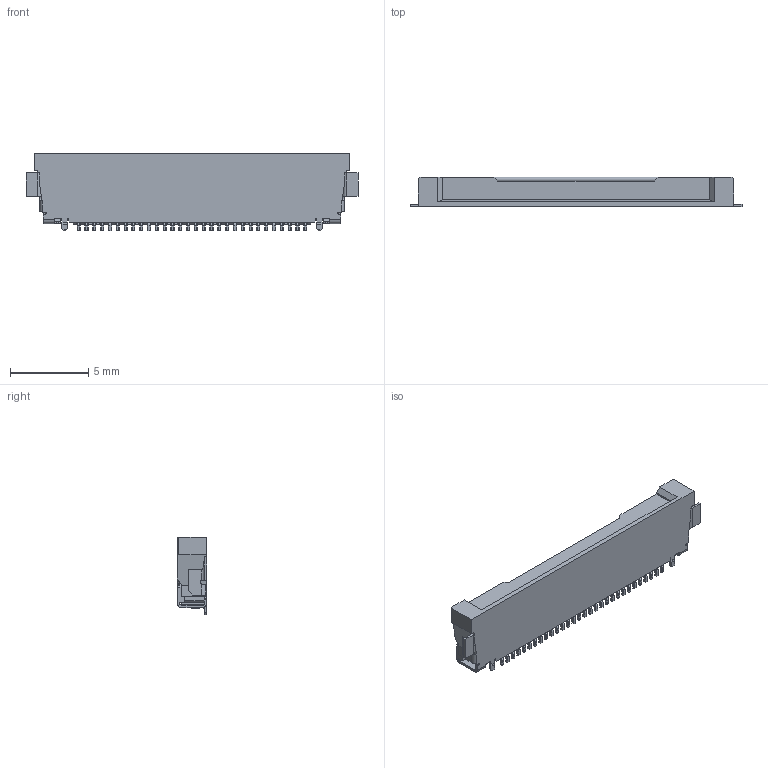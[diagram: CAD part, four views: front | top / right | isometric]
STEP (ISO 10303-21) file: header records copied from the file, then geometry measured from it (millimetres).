
FILE_DESCRIPTION (( 'STEP AP203' ), '1' );
FILE_NAME ('20535-030ExxxC Assy STEP R4 ALL.STEP', '2013-03-07T09:52:43', ( ' ' ), ( ' ' ), 'SwSTEP 2.0', 'SolidWorks 2011', '' );
FILE_SCHEMA (( 'CONFIG_CONTROL_DESIGN' ));
Length unit declared in the file: millimetre
Products named in the file (1): 20535-030ExxxC Assy STEP R4 ALL
Bounding box: 21.25 x 1.9 x 4.95 mm (x, y, z)
Volume: 145.4 mm3; surface area: 309.7 mm2
Topology: 1 solids, 1 shells, 1414 faces, 4000 edges, 2582 vertices
Faces by surface type: plane 1020, cylinder 330, cone 64
Entity records: 45367 total; most frequent: CARTESIAN_POINT 8237, ORIENTED_EDGE 8000, DIRECTION 7472, EDGE_CURVE 4000, LINE 3202, VECTOR 3202, VERTEX_POINT 2582, AXIS2_PLACEMENT_3D 2135
